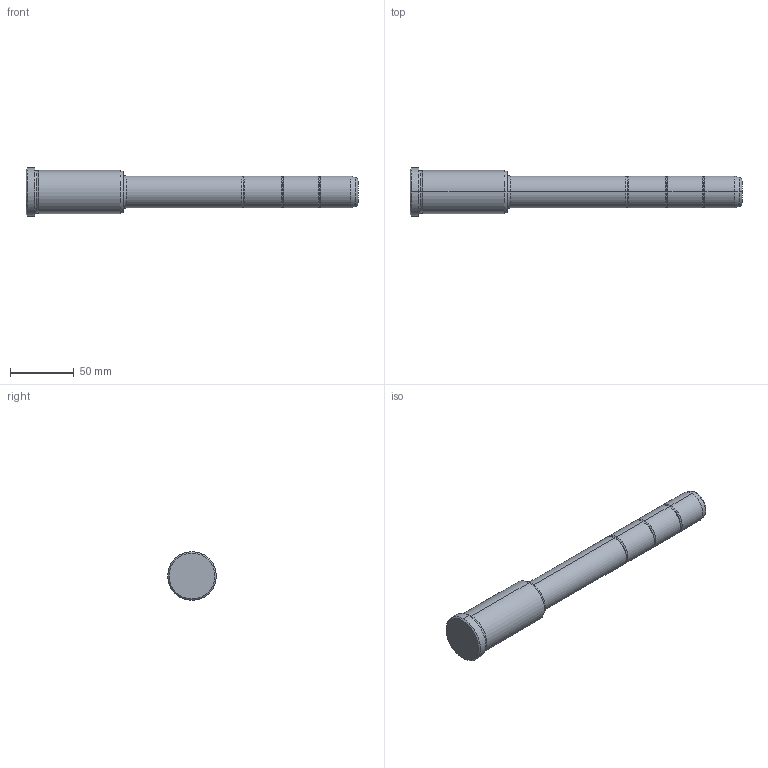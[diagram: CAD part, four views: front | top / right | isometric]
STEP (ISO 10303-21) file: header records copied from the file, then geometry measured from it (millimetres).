
FILE_DESCRIPTION(('CATIA V5 STEP Exchange'),'2;1');
FILE_NAME('C:\Users\Utente\Desktop\IO LAVORO\3D X SITO CF\X SITO\PLASTICA\351\351-25X76X260.stp','2021-09-07T11:28:58+00:00',('none'),('none'),'CATIA Version 5 Release 20 GA (IN-10)','CATIA V5 STEP AP203','none');
FILE_SCHEMA(('CONFIG_CONTROL_DESIGN'));
Length unit declared in the file: millimetre
Products named in the file (1): 351-25X76X260
Bounding box: 260 x 38 x 38 mm (x, y, z)
Volume: 160025.9 mm3; surface area: 24666.6 mm2
Topology: 1 solids, 1 shells, 42 faces, 118 edges, 80 vertices
Faces by surface type: torus 20, cylinder 12, cone 6, plane 4
Entity records: 1472 total; most frequent: CARTESIAN_POINT 353, ORIENTED_EDGE 236, DIRECTION 194, AXIS2_PLACEMENT_3D 135, EDGE_CURVE 118, CIRCLE 92, VERTEX_POINT 80, EDGE_LOOP 44
